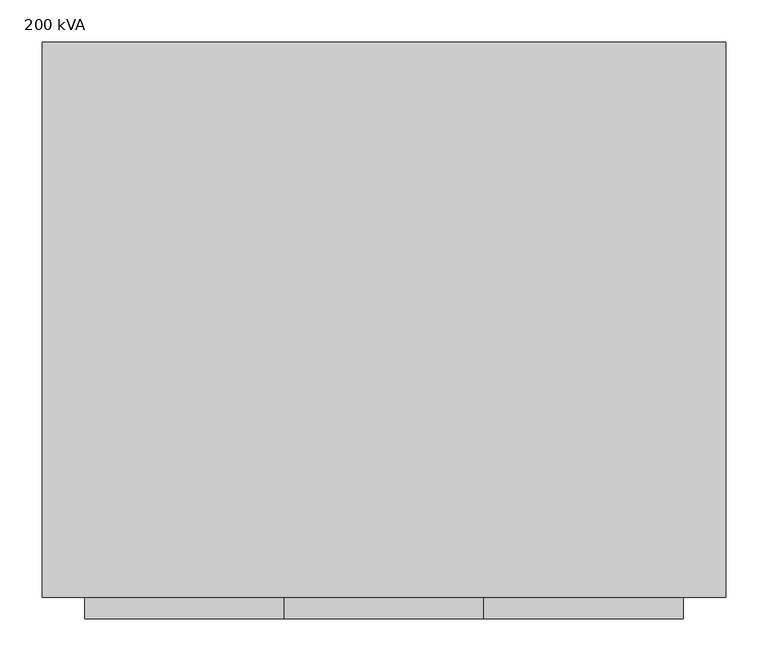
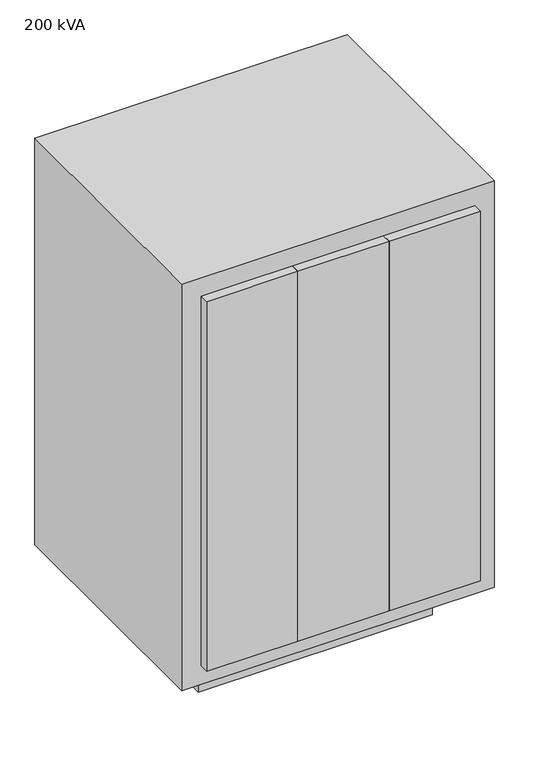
"""IFC4 building model written with IfcOpenShell, lengths in millimetres: proxy geometry, Dry Type Transformer - 12000-208Y120 - NEMA Type 1 : 200 kVA."""

from ifc_helpers import new_model, si_unit, frame, origin, origin_with_axes, place, context, project, spatial, polyline, outline, extrude, source, transform, mapped, element, save


def proxy_200_kva_0cb5b2e3(model_context):
    return source(origin(), model_context, "Body", "SweptSolid", [
        extrude(outline(polyline([(304.8, -101.6), (304.8, -558.8), (-304.8, -558.8), (-304.8, -101.6), (304.8, -101.6)])), origin_with_axes(), (0.0, 0.0, 1.0), 101.6),
        extrude(outline(polyline([(406.4, 0.0), (406.4, -660.4), (-406.4, -660.4), (-406.4, 0.0), (406.4, 0.0)])), frame((0.0, 0.0, 101.6), z_axis=(0.0, 0.0, 1.0), x_axis=(1.0, 0.0, 0.0)), (0.0, 0.0, 1.0), 1117.6),
        extrude(outline(polyline([(355.6, -660.4), (355.6, -685.8), (118.5333333, -685.8), (118.5333333, -660.4), (355.6, -660.4)])), frame((0.0, 0.0, 152.4), z_axis=(0.0, 0.0, 1.0), x_axis=(1.0, 0.0, 0.0)), (0.0, 0.0, 1.0), 1016.0),
        extrude(outline(polyline([(118.5333333, -660.4), (118.5333333, -685.8), (-118.5333333, -685.8), (-118.5333333, -660.4), (118.5333333, -660.4)])), frame((0.0, 0.0, 152.4), z_axis=(0.0, 0.0, 1.0), x_axis=(1.0, 0.0, 0.0)), (0.0, 0.0, 1.0), 1016.0),
        extrude(outline(polyline([(-118.5333333, -660.4), (-118.5333333, -685.8), (-355.6, -685.8), (-355.6, -660.4), (-118.5333333, -660.4)])), frame((0.0, 0.0, 152.4), z_axis=(0.0, 0.0, 1.0), x_axis=(1.0, 0.0, 0.0)), (0.0, 0.0, 1.0), 1016.0),
    ])


if __name__ == "__main__":
    model = new_model("IFC4")
    model_context = context("Model", 3, world=origin())
    ifc_project = project(units=[si_unit("LENGTHUNIT", "METRE", prefix="MILLI")], contexts=[model_context])
    site = spatial("IfcSite", under=ifc_project)
    building = spatial("IfcBuilding", under=site)
    placement = place(None, origin())
    proxy_200_kva_shape = proxy_200_kva_0cb5b2e3(model_context)
    element("IfcBuildingElementProxy", 1, Name="Dry Type Transformer - 12000-208Y120 - NEMA Type 1 : 200 kVA", ObjectType="Dry Type Transformer - 12000-208Y120 - NEMA Type 1 : 200 kVA", at=placement, inside=building, context=model_context, shape_type="MappedRepresentation", body=[
        mapped(proxy_200_kva_shape, transform((0.0, 0.0, 0.0), x_axis=(1.0, 0.0, 0.0), y_axis=(0.0, 1.0, 0.0), z_axis=(0.0, 0.0, 1.0))),
    ])
    save(model, "model.ifc")
